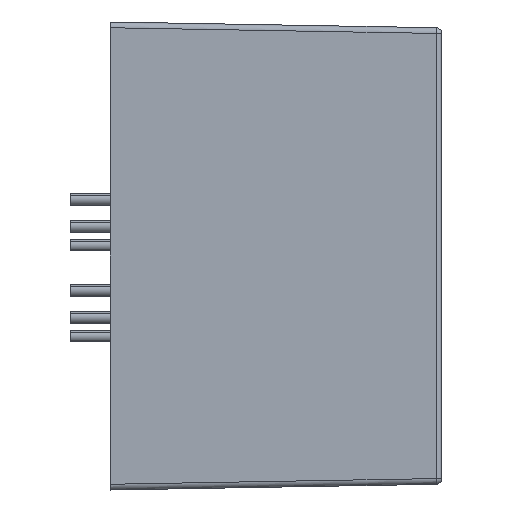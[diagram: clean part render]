
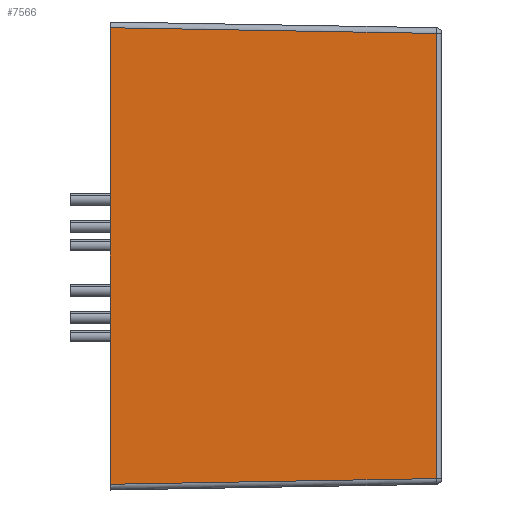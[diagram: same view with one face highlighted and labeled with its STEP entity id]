
A CAD part, left-side view. The second image highlights one B-rep face of the part: STEP entity #7566.
In plain terms, the highlighted planar face has unit normal (-1, -0.018, 0).
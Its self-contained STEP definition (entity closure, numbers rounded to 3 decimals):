
#1060 = EDGE_CURVE ( 'NONE', #19331, #18455, #22738, .T. ) ;
#1479 = CARTESIAN_POINT ( 'NONE',  ( -39.39, 0., 19.84 ) ) ;
#2336 = CARTESIAN_POINT ( 'NONE',  ( -39.39, 0.009, 19.84 ) ) ;
#2961 = CARTESIAN_POINT ( 'NONE',  ( -39.378, -0.701, -19.828 ) ) ;
#3166 = LINE ( 'NONE', #9852, #22148 ) ;
#4049 = EDGE_CURVE ( 'NONE', #20294, #18455, #3166, .T. ) ;
#4380 = CARTESIAN_POINT ( 'NONE',  ( -39.39, 0., 20.34 ) ) ;
#4690 = FACE_OUTER_BOUND ( 'NONE', #11702, .T. ) ;
#5636 = CARTESIAN_POINT ( 'NONE',  ( -38.896, -28.309, 20.34 ) ) ;
#7566 = ADVANCED_FACE ( 'NONE', ( #4690 ), #20495, .T. ) ;
#9852 = CARTESIAN_POINT ( 'NONE',  ( -39.39, 0., 20.34 ) ) ;
#11702 = EDGE_LOOP ( 'NONE', ( #28549, #11925, #24665, #14483 ) ) ;
#11720 = CARTESIAN_POINT ( 'NONE',  ( -39.39, 0., -19.84 ) ) ;
#11925 = ORIENTED_EDGE ( 'NONE', *, *, #1060, .T. ) ;
#12041 = DIRECTION ( 'NONE',  ( 0.017, -1., 0.017 ) ) ;
#12571 = VECTOR ( 'NONE', #21441, 1000. ) ;
#13447 = AXIS2_PLACEMENT_3D ( 'NONE', #4380, #27779, #18401 ) ;
#14483 = ORIENTED_EDGE ( 'NONE', *, *, #14768, .T. ) ;
#14768 = EDGE_CURVE ( 'NONE', #20294, #27953, #17104, .T. ) ;
#14817 = EDGE_CURVE ( 'NONE', #27953, #19331, #23676, .T. ) ;
#15754 = CARTESIAN_POINT ( 'NONE',  ( -38.896, -28.309, 19.346 ) ) ;
#17104 = LINE ( 'NONE', #2961, #25426 ) ;
#18401 = DIRECTION ( 'NONE',  ( 0.017, -1., 0. ) ) ;
#18455 = VERTEX_POINT ( 'NONE', #1479 ) ;
#19114 = DIRECTION ( 'NONE',  ( 0., 0., 1. ) ) ;
#19331 = VERTEX_POINT ( 'NONE', #15754 ) ;
#20294 = VERTEX_POINT ( 'NONE', #11720 ) ;
#20495 = PLANE ( 'NONE',  #13447 ) ;
#21441 = DIRECTION ( 'NONE',  ( 0., 0., 1. ) ) ;
#22148 = VECTOR ( 'NONE', #19114, 1000. ) ;
#22574 = CARTESIAN_POINT ( 'NONE',  ( -38.896, -28.309, -19.346 ) ) ;
#22738 = LINE ( 'NONE', #2336, #27982 ) ;
#23676 = LINE ( 'NONE', #5636, #12571 ) ;
#24665 = ORIENTED_EDGE ( 'NONE', *, *, #4049, .F. ) ;
#25426 = VECTOR ( 'NONE', #12041, 1000. ) ;
#27071 = DIRECTION ( 'NONE',  ( -0.017, 1., 0.017 ) ) ;
#27779 = DIRECTION ( 'NONE',  ( -1., -0.017, 0. ) ) ;
#27953 = VERTEX_POINT ( 'NONE', #22574 ) ;
#27982 = VECTOR ( 'NONE', #27071, 1000. ) ;
#28549 = ORIENTED_EDGE ( 'NONE', *, *, #14817, .T. ) ;
